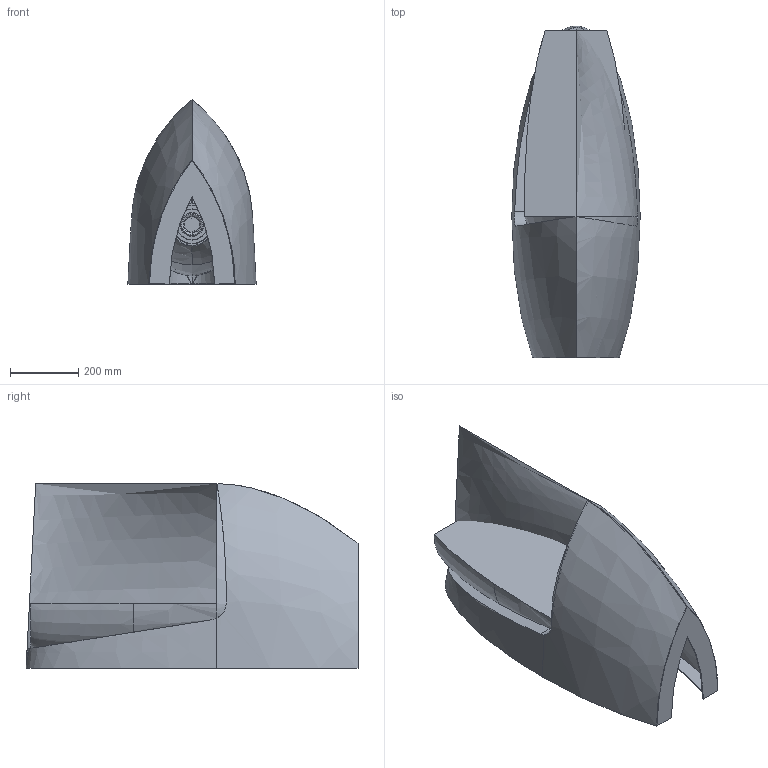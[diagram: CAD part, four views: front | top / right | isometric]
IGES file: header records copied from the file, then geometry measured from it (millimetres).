
Global section: file name: No Iges File Name specified; native system: Autodesk Inventor 2009; preprocessor: AutoDesk Inventor Iges Exporter R2009; author: Finn Lundsgaard; date: 20100207.080953; units: millimetre
Bounding box: 375 x 970 x 540 mm (x, y, z)
Volume: 29273891.4 mm3; surface area: 3317392.6 mm2
Topology: 4 solids, 4 shells, 186 faces, 479 edges, 302 vertices
Faces by surface type: bspline 77, plane 34, revolution 31, torus 19, cone 18, cylinder 7
